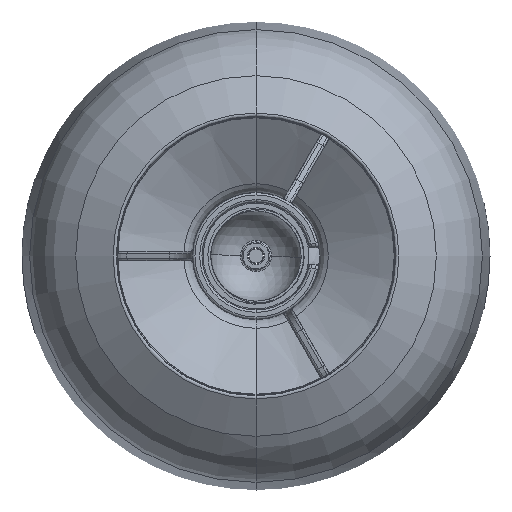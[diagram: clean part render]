
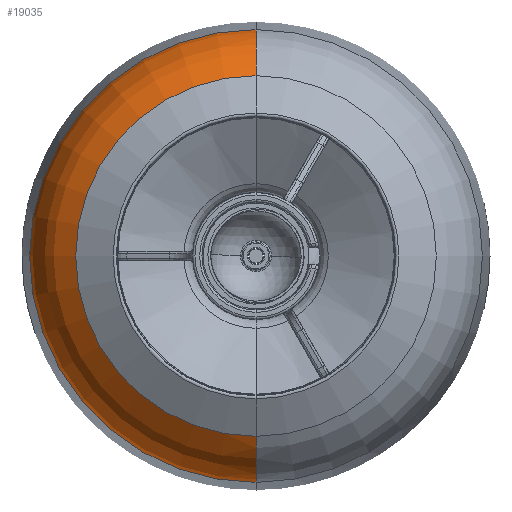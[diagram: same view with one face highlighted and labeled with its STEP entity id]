
A CAD part, front view. The second image highlights one B-rep face of the part: STEP entity #19035.
In plain terms, the highlighted toroidal (fillet/blend) face has major radius 56.784 mm and minor radius 40 mm.
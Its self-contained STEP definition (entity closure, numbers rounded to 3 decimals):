
#133 = CARTESIAN_POINT ( 'NONE',  ( 0., -54.059, 0. ) ) ;
#313 = FACE_OUTER_BOUND ( 'NONE', #21582, .T. ) ;
#626 = EDGE_CURVE ( 'NONE', #7037, #16827, #15547, .T. ) ;
#1134 = DIRECTION ( 'NONE',  ( 0., 1., 0. ) ) ;
#2171 = CARTESIAN_POINT ( 'NONE',  ( 0., -83.361, -76.784 ) ) ;
#2987 = VERTEX_POINT ( 'NONE', #13718 ) ;
#3462 = CIRCLE ( 'NONE', #15178, 96.426 ) ;
#4169 = AXIS2_PLACEMENT_3D ( 'NONE', #15356, #9674, #16894 ) ;
#5302 = DIRECTION ( 'NONE',  ( 0., 0., 1. ) ) ;
#5876 = CIRCLE ( 'NONE', #9059, 40. ) ;
#6255 = DIRECTION ( 'NONE',  ( 0., 1., 0. ) ) ;
#7037 = VERTEX_POINT ( 'NONE', #14469 ) ;
#7212 = VERTEX_POINT ( 'NONE', #2171 ) ;
#7492 = CARTESIAN_POINT ( 'NONE',  ( 0., -48.72, 0. ) ) ;
#7960 = CARTESIAN_POINT ( 'NONE',  ( 0., -54.059, 96.426 ) ) ;
#8644 = EDGE_CURVE ( 'NONE', #7212, #2987, #5876, .T. ) ;
#8766 = DIRECTION ( 'NONE',  ( 0., 1., 0. ) ) ;
#9059 = AXIS2_PLACEMENT_3D ( 'NONE', #10930, #9272, #13053 ) ;
#9272 = DIRECTION ( 'NONE',  ( 1., 0., 0. ) ) ;
#9674 = DIRECTION ( 'NONE',  ( -1., 0., 0. ) ) ;
#10930 = CARTESIAN_POINT ( 'NONE',  ( 0., -48.72, -56.784 ) ) ;
#11846 = CARTESIAN_POINT ( 'NONE',  ( 0., -83.361, 0. ) ) ;
#13053 = DIRECTION ( 'NONE',  ( 0., 0., -1. ) ) ;
#13718 = CARTESIAN_POINT ( 'NONE',  ( 0., -54.059, -96.426 ) ) ;
#13745 = DIRECTION ( 'NONE',  ( 0., 0., 1. ) ) ;
#14469 = CARTESIAN_POINT ( 'NONE',  ( 0., -83.361, 76.784 ) ) ;
#14781 = CIRCLE ( 'NONE', #22732, 76.784 ) ;
#15178 = AXIS2_PLACEMENT_3D ( 'NONE', #133, #8766, #5302 ) ;
#15181 = EDGE_CURVE ( 'NONE', #2987, #16827, #3462, .T. ) ;
#15356 = CARTESIAN_POINT ( 'NONE',  ( 0., -48.72, 56.784 ) ) ;
#15360 = AXIS2_PLACEMENT_3D ( 'NONE', #7492, #1134, #22537 ) ;
#15404 = ORIENTED_EDGE ( 'NONE', *, *, #22320, .T. ) ;
#15547 = CIRCLE ( 'NONE', #4169, 40. ) ;
#16827 = VERTEX_POINT ( 'NONE', #7960 ) ;
#16894 = DIRECTION ( 'NONE',  ( 0., 0., 1. ) ) ;
#18253 = ORIENTED_EDGE ( 'NONE', *, *, #15181, .F. ) ;
#18389 = TOROIDAL_SURFACE ( 'NONE', #15360, 56.784, 40. ) ;
#19035 = ADVANCED_FACE ( 'NONE', ( #313 ), #18389, .T. ) ;
#19407 = ORIENTED_EDGE ( 'NONE', *, *, #626, .T. ) ;
#21582 = EDGE_LOOP ( 'NONE', ( #21622, #15404, #19407, #18253 ) ) ;
#21622 = ORIENTED_EDGE ( 'NONE', *, *, #8644, .F. ) ;
#22320 = EDGE_CURVE ( 'NONE', #7212, #7037, #14781, .T. ) ;
#22537 = DIRECTION ( 'NONE',  ( 0., 0., 1. ) ) ;
#22732 = AXIS2_PLACEMENT_3D ( 'NONE', #11846, #6255, #13745 ) ;
